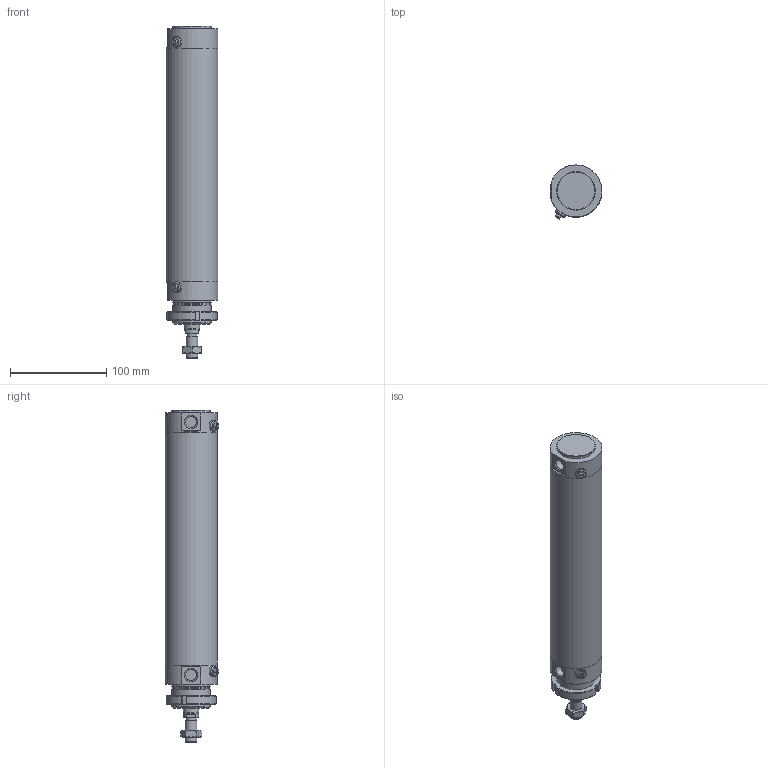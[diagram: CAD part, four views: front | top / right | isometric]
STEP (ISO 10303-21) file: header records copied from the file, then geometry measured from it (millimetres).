
FILE_DESCRIPTION(/* description */ (''),/* implementation_level */ '2;1');
FILE_NAME(/* name */ 'I:\Area Tecnica\Documenti\A-Manieri\_Inventor\12X\12X#D_###_####_#_#\12XBD_050_0200_#_#.stp',/* time_stamp */ '2015-05-04T15:12:54+02:00',/* author */ ('maniean1'),/* organization */ ('Pneumax S.p.A.'),/* preprocessor_version */ 'ST-DEVELOPER v15.2',/* originating_system */ 'Autodesk Inventor 2014',/* authorisation */ '');
FILE_SCHEMA (('AUTOMOTIVE_DESIGN { 1 0 10303 214 3 1 1 }'));
Length unit declared in the file: millimetre
Products named in the file (7): C1250_619-0200; 12X50_606; S12X50_0200; 12X_50_11; 12X50_612; G12X_050_05; 12XBD_050_0200_#_#
Bounding box: 54 x 55.88 x 345 mm (x, y, z)
Volume: 341737.7 mm3; surface area: 131246.9 mm2
Topology: 6 solids, 6 shells, 99 faces, 217 edges, 140 vertices
Faces by surface type: plane 53, cylinder 25, cone 19, torus 2
Full cylindrical faces by diameter (mm): 5 x2, 10.2 x1, 11 x2, 11.4 x2, 12 x2, 14 x1, 15.6 x1, 16 x1, 38.2 x1, 40 x4, 50 x2, 54 x3
Entity records: 2667 total; most frequent: CARTESIAN_POINT 540, DIRECTION 444, ORIENTED_EDGE 348, AXIS2_PLACEMENT_3D 188, EDGE_CURVE 174, EDGE_LOOP 152, VERTEX_POINT 132, ADVANCED_FACE 99
